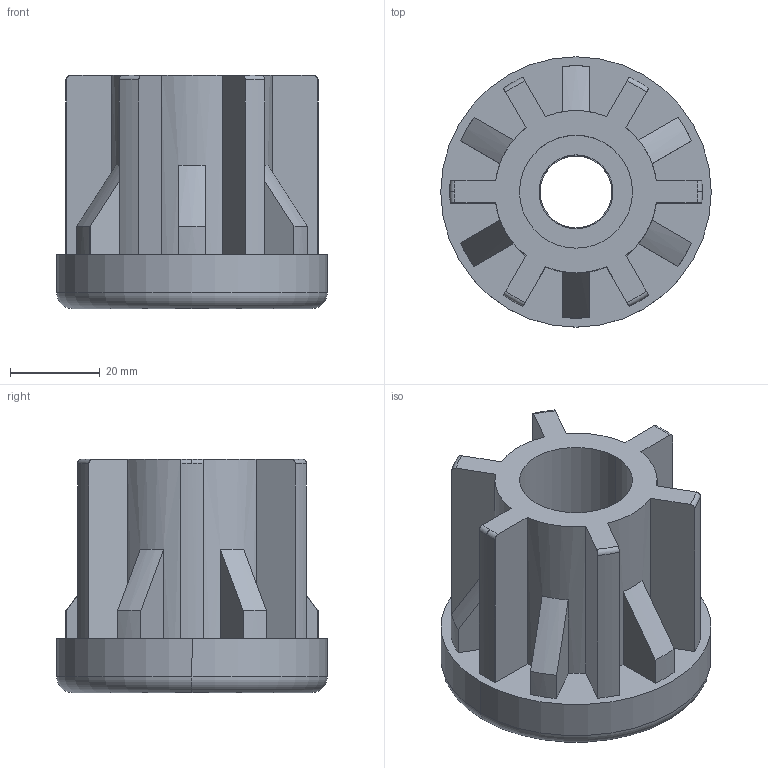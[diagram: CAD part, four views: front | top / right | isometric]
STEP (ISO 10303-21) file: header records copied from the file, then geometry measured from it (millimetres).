
FILE_DESCRIPTION (( 'STEP AP214' ), '1' );
FILE_NAME ('42006460316.STEP', '2020-02-25T17:27:33', ( '' ), ( '' ), 'SwSTEP 2.0', 'SolidWorks 2018', '' );
FILE_SCHEMA (( 'AUTOMOTIVE_DESIGN' ));
Length unit declared in the file: millimetre
Products named in the file (4): 42006460316.stp; corpo tappo M14_60_57.stp; BC_M16.stp; 42006460316
Assembly tree (3 placements, depth 3):
  42006460316
    42006460316.stp
      corpo tappo M14_60_57.stp
      BC_M16.stp
Bounding box: 60.3 x 60.3 x 52 mm (x, y, z)
Volume: 74714.7 mm3; surface area: 23196.9 mm2
Topology: 2 solids, 2 shells, 107 faces, 280 edges, 180 vertices
Faces by surface type: cylinder 46, plane 31, torus 16, cone 8, bspline 6
Entity records: 4314 total; most frequent: CARTESIAN_POINT 1534, DIRECTION 572, ORIENTED_EDGE 560, EDGE_CURVE 280, AXIS2_PLACEMENT_3D 226, VERTEX_POINT 180, LINE 120, VECTOR 120
